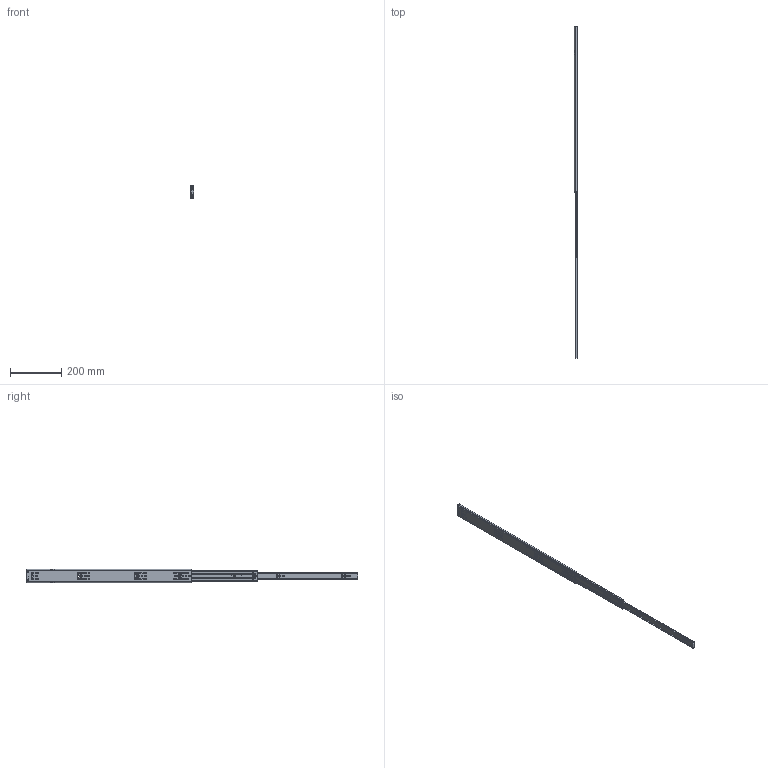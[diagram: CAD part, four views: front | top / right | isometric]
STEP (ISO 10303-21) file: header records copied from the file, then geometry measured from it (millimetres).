
FILE_DESCRIPTION( ( 'Unknown' ), '1' );
FILE_NAME( 'W:/研發專區/T150298_仁智/4.3D圖面/85A01/3D/650/Step/85A01-650(open).stp', 'Unknown', ( 'Unknown' ), ( 'Unknown' ), 'PSStep 14.0', 'Unknown', ' ' );
FILE_SCHEMA( ( 'AUTOMOTIVE_DESIGN { 1 0 10303 214 1 1 1 1 }' ) );
Length unit declared in the file: millimetre
Products named in the file (6): 85A01-O; P10-367-130429; Assem1; 85A01-M; 85A01-I
Assembly tree (5 placements, depth 3):
  Assem1
    85A01-M
    85A01-I
    85A01-O
      P10-367-130429
      85A01-O
Bounding box: 12.7 x 1300 x 54.7 mm (x, y, z)
Volume: 232107 mm3; surface area: 218929.3 mm2
Topology: 4 solids, 5 shells, 487 faces, 1421 edges, 944 vertices
Faces by surface type: cylinder 226, plane 220, cone 32, torus 9
Full cylindrical faces by diameter (mm): 4.6 x1, 5 x2, 6.25 x1, 6.4 x4
Entity records: 20354 total; most frequent: CARTESIAN_POINT 3051, DIRECTION 2820, ORIENTED_EDGE 2810, EDGE_CURVE 1405, AXIS2_PLACEMENT_3D 989, VERTEX_POINT 936, LINE 842, VECTOR 842
